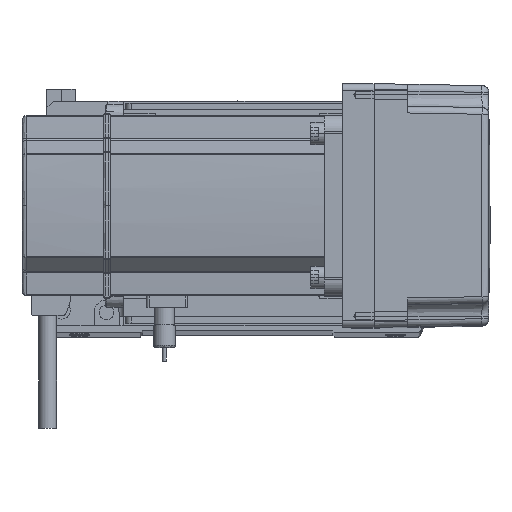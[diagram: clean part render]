
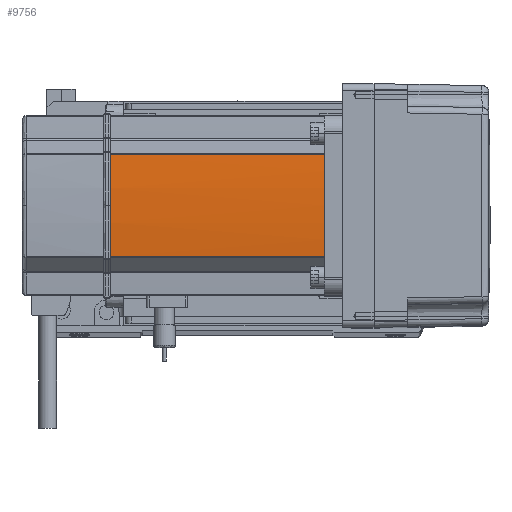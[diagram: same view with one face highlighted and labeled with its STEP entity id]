
A CAD part, top view. The second image highlights one B-rep face of the part: STEP entity #9756.
In plain terms, the highlighted cylindrical face has radius 270 mm (diameter 540 mm), a partial arc.
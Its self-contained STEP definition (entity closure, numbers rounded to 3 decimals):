
#995 = CARTESIAN_POINT ( 'NONE',  ( 230., 0., 0. ) ) ;
#3750 = DIRECTION ( 'NONE',  ( 0., 0., -1. ) ) ;
#4349 = DIRECTION ( 'NONE',  ( 1., 0., 0. ) ) ;
#4940 = VERTEX_POINT ( 'NONE', #36751 ) ;
#5455 = LINE ( 'NONE', #58784, #16128 ) ;
#9756 = ADVANCED_FACE ( 'NONE', ( #54167 ), #52770, .T. ) ;
#12145 = AXIS2_PLACEMENT_3D ( 'NONE', #995, #27596, #55202 ) ;
#12979 = DIRECTION ( 'NONE',  ( 0., 0., 1. ) ) ;
#13654 = CIRCLE ( 'NONE', #16980, 270. ) ;
#15364 = AXIS2_PLACEMENT_3D ( 'NONE', #49273, #39778, #57746 ) ;
#15805 = CARTESIAN_POINT ( 'NONE',  ( -39.042, -22.724, 39. ) ) ;
#16128 = VECTOR ( 'NONE', #12979, 1000. ) ;
#16676 = LINE ( 'NONE', #26494, #48692 ) ;
#16980 = AXIS2_PLACEMENT_3D ( 'NONE', #30977, #3750, #4349 ) ;
#17421 = ORIENTED_EDGE ( 'NONE', *, *, #47098, .T. ) ;
#17916 = CIRCLE ( 'NONE', #55214, 270. ) ;
#17978 = ORIENTED_EDGE ( 'NONE', *, *, #33357, .F. ) ;
#22699 = ORIENTED_EDGE ( 'NONE', *, *, #30053, .T. ) ;
#23991 = VERTEX_POINT ( 'NONE', #15805 ) ;
#24748 = ORIENTED_EDGE ( 'NONE', *, *, #52481, .T. ) ;
#26494 = CARTESIAN_POINT ( 'NONE',  ( -39.042, 22.724, 0. ) ) ;
#26651 = VERTEX_POINT ( 'NONE', #49484 ) ;
#27596 = DIRECTION ( 'NONE',  ( 0., 0., 1. ) ) ;
#28849 = DIRECTION ( 'NONE',  ( 1., 0., 0. ) ) ;
#30053 = EDGE_CURVE ( 'NONE', #42646, #4940, #42535, .T. ) ;
#30977 = CARTESIAN_POINT ( 'NONE',  ( 230., 0., 39. ) ) ;
#31815 = EDGE_CURVE ( 'NONE', #50277, #26651, #16676, .T. ) ;
#32874 = DIRECTION ( 'NONE',  ( 0., 0., -1. ) ) ;
#33357 = EDGE_CURVE ( 'NONE', #23991, #26651, #13654, .T. ) ;
#36267 = CARTESIAN_POINT ( 'NONE',  ( -39.042, 22.724, 134. ) ) ;
#36751 = CARTESIAN_POINT ( 'NONE',  ( -40., 0., 134. ) ) ;
#39778 = DIRECTION ( 'NONE',  ( 0., 0., -1. ) ) ;
#40996 = EDGE_LOOP ( 'NONE', ( #22699, #17421, #52735, #17978, #24748 ) ) ;
#42409 = CARTESIAN_POINT ( 'NONE',  ( 230., 0., 134. ) ) ;
#42535 = CIRCLE ( 'NONE', #15364, 270. ) ;
#42646 = VERTEX_POINT ( 'NONE', #56046 ) ;
#47098 = EDGE_CURVE ( 'NONE', #4940, #50277, #17916, .T. ) ;
#48692 = VECTOR ( 'NONE', #51264, 1000. ) ;
#49273 = CARTESIAN_POINT ( 'NONE',  ( 230., 0., 134. ) ) ;
#49484 = CARTESIAN_POINT ( 'NONE',  ( -39.042, 22.724, 39. ) ) ;
#50277 = VERTEX_POINT ( 'NONE', #36267 ) ;
#51264 = DIRECTION ( 'NONE',  ( 0., 0., -1. ) ) ;
#52481 = EDGE_CURVE ( 'NONE', #23991, #42646, #5455, .T. ) ;
#52735 = ORIENTED_EDGE ( 'NONE', *, *, #31815, .T. ) ;
#52770 = CYLINDRICAL_SURFACE ( 'NONE', #12145, 270. ) ;
#54167 = FACE_OUTER_BOUND ( 'NONE', #40996, .T. ) ;
#55202 = DIRECTION ( 'NONE',  ( 1., 0., 0. ) ) ;
#55214 = AXIS2_PLACEMENT_3D ( 'NONE', #42409, #32874, #28849 ) ;
#56046 = CARTESIAN_POINT ( 'NONE',  ( -39.042, -22.724, 134. ) ) ;
#57746 = DIRECTION ( 'NONE',  ( 1., 0., 0. ) ) ;
#58784 = CARTESIAN_POINT ( 'NONE',  ( -39.042, -22.724, 0. ) ) ;
